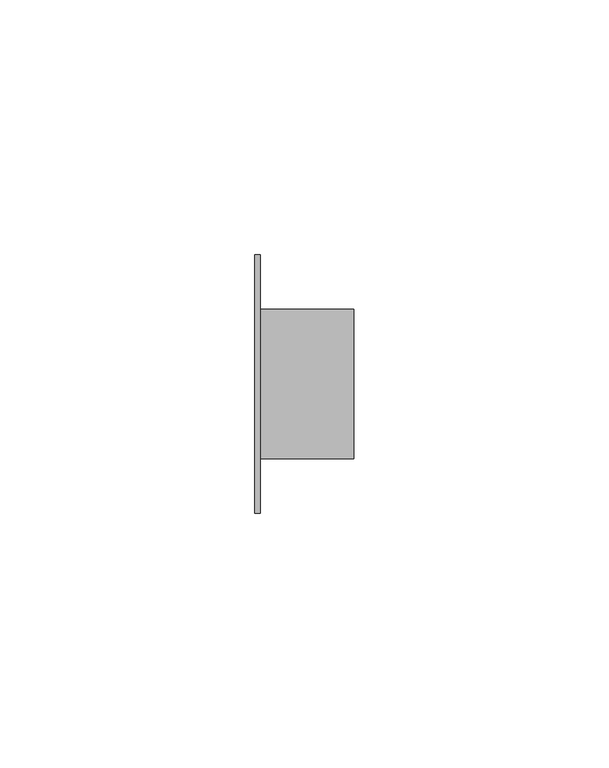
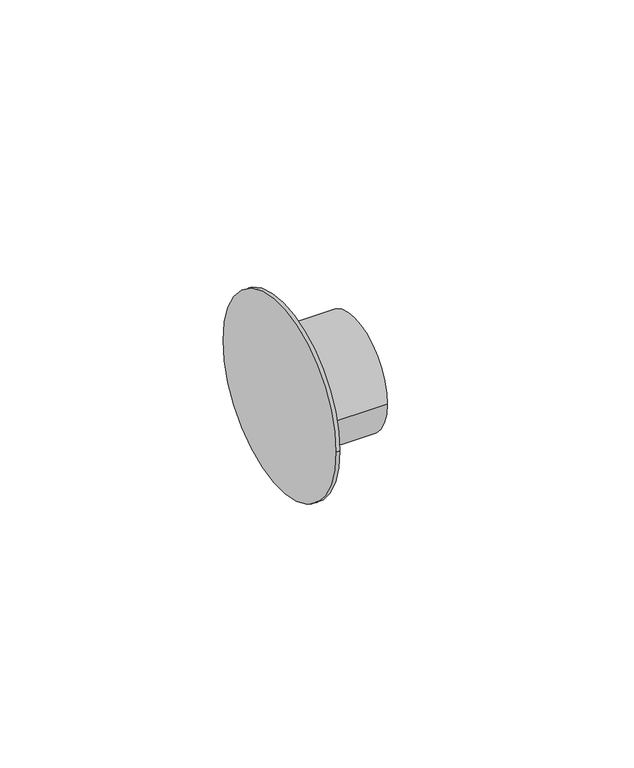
"""IFC4 building model written with IfcOpenShell, lengths in millimetres: pipe fitting geometry, Bucha de redução reta - Soldada - CU : Padrão."""

from ifc_helpers import new_model, si_unit, frame, origin, place, context, project, spatial, circle_curve, source, transform, mapped, element, save
from ifc_brep_helpers import plane_surface, cylinder_surface, advanced_brep


def pipe_fitting_3263ca60(model_context):
    return source(origin(), model_context, "Body", "AdvancedBrep", [
        advanced_brep(
        [(0.0, -25.3, 0.0), (0.0, 25.3, 0.0), (1.0, -25.3, 0.0), (1.0, 25.3, 0.0), (1.0, -14.7, 0.0), (1.0, 14.7, 0.0), (19.4, -14.7, 0.0), (19.4, 14.7, 0.0)],
        [
            (0, 1, circle_curve(frame((0.0, 0.0, 0.0), z_axis=(-1.0, 0.0, 0.0), x_axis=(0.0, 1.0, 0.0)), 25.3)),
            (1, 0, circle_curve(frame((0.0, 0.0, 0.0), z_axis=(-1.0, 0.0, 0.0), x_axis=(0.0, 1.0, 0.0)), 25.3)),
            (2, 3, circle_curve(frame((1.0, 0.0, 0.0), z_axis=(1.0, 0.0, 0.0), x_axis=(0.0, 1.0, 0.0)), 25.3)),
            (3, 2, circle_curve(frame((1.0, 0.0, 0.0), z_axis=(1.0, 0.0, 0.0), x_axis=(0.0, 1.0, 0.0)), 25.3)),
            (4, 5, circle_curve(frame((1.0, 0.0, 0.0), z_axis=(-1.0, 0.0, 0.0), x_axis=(0.0, 1.0, 0.0)), 14.7)),
            (5, 4, circle_curve(frame((1.0, 0.0, 0.0), z_axis=(-1.0, 0.0, 0.0), x_axis=(0.0, 1.0, 0.0)), 14.7)),
            (0, 2),
            (3, 1),
            (6, 7, circle_curve(frame((19.4, 0.0, 0.0), z_axis=(1.0, 0.0, 0.0), x_axis=(0.0, 1.0, 0.0)), 14.7)),
            (7, 6, circle_curve(frame((19.4, 0.0, 0.0), z_axis=(1.0, 0.0, 0.0), x_axis=(0.0, 1.0, 0.0)), 14.7)),
            (7, 5),
            (4, 6),
        ],
        [
            plane_surface(frame((0.0, 0.0, 0.0), z_axis=(-1.0, 0.0, 0.0), x_axis=(0.0, 0.0, 1.0))),
            plane_surface(frame((1.0, 0.0, 0.0), z_axis=(1.0, 0.0, 0.0), x_axis=(0.0, 0.0, 1.0))),
            cylinder_surface(frame((0.0, 0.0, 0.0), z_axis=(-1.0, 0.0, 0.0), x_axis=(0.0, 1.0, 0.0)), 25.3),
            plane_surface(frame((19.4, 0.0, 0.0), z_axis=(1.0, 0.0, 0.0), x_axis=(0.0, 0.0, 1.0))),
            cylinder_surface(frame((1.0, 0.0, 0.0), z_axis=(-1.0, 0.0, 0.0), x_axis=(0.0, 1.0, 0.0)), 14.7),
        ],
        [
            (0, [[1, 2]]),
            (1, [[3, 4], [5, 6]]),
            (2, [[-1, 7, -4, 8]]),
            (2, [[-2, -8, -3, -7]]),
            (3, [[9, 10]]),
            (4, [[-10, 11, -5, 12]]),
            (4, [[-9, -12, -6, -11]]),
        ],
    ),
    ])


if __name__ == "__main__":
    model = new_model("IFC4")
    model_context = context("Model", 3, world=origin())
    ifc_project = project(units=[si_unit("LENGTHUNIT", "METRE", prefix="MILLI")], contexts=[model_context])
    site = spatial("IfcSite", under=ifc_project)
    building = spatial("IfcBuilding", under=site)
    placement = place(None, origin())
    pipe_fitting_shape = pipe_fitting_3263ca60(model_context)
    element("IfcPipeFitting", 1, ObjectType="Bucha de redução reta - Soldada - CU : Padrão", at=placement, inside=building, context=model_context, shape_type="MappedRepresentation", body=[
        mapped(pipe_fitting_shape, transform((0.0, 0.0, 0.0), x_axis=(1.0, 0.0, 0.0), y_axis=(0.0, 1.0, 0.0), z_axis=(0.0, 0.0, 1.0))),
    ])
    save(model, "model.ifc")
